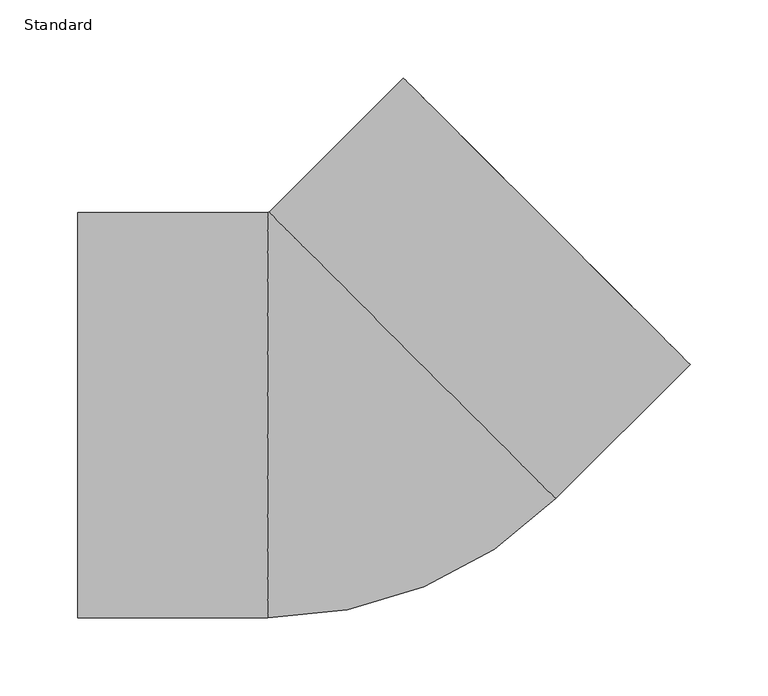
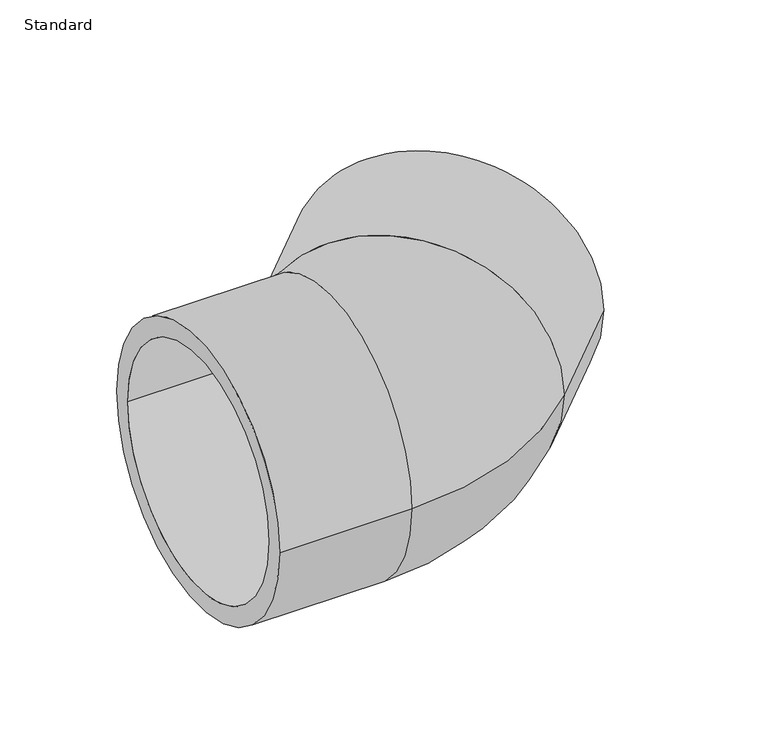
"""IFC4 building model written with IfcOpenShell, lengths in millimetres: pipe fitting geometry, Durapipe_PipeFitting_PVC_Elbow45deg : Standard."""

from ifc_helpers import new_model, si_unit, point, frame, origin, place, context, project, spatial, polyline, circle_curve, ellipse_curve, trimmed, source, transform, mapped, element, save
from ifc_brep_helpers import plane_surface, cylinder_surface, revolved_surface, advanced_brep


def standard_e92a946d(model_context):
    return source(origin(), model_context, "Body", "AdvancedBrep", [
        advanced_brep(
        [(-176.0, -130.0, 0.0), (-176.0, 130.0, 0.0), (-176.0, -112.5, 0.0), (-176.0, 112.5, 0.0), (-54.3477631, -130.0, 0.0), (-54.3477631, 130.0, 0.0), (130.3535534, -53.4942097, 0.0), (-53.4942097, 130.3535534, 0.0), (216.374675, 32.5269119, 0.0), (32.5269119, 216.374675, 0.0), (44.9012806, 204.0003064, 0.0), (204.0003064, 44.9012806, 0.0), (-55.0, 112.5, 0.0), (-55.0, -112.5, 0.0), (-55.0, 0.0, 0.0), (-40.6586399, 118.4403858, 0.0), (38.890873, 38.890873, 0.0), (118.4403858, -40.6586399, 0.0)],
        [
            (0, 1, circle_curve(frame((-176.0, 0.0, 0.0), z_axis=(-1.0, 0.0, 0.0), x_axis=(0.0, 1.0, 0.0)), 130.0)),
            (1, 0, circle_curve(frame((-176.0, 0.0, 0.0), z_axis=(-1.0, 0.0, 0.0), x_axis=(0.0, 1.0, 0.0)), 130.0)),
            (2, 3, circle_curve(frame((-176.0, 0.0, 0.0), z_axis=(1.0, 0.0, 0.0), x_axis=(0.0, -1.0, 0.0)), 112.5)),
            (3, 2, circle_curve(frame((-176.0, 0.0, 0.0), z_axis=(1.0, 0.0, 0.0), x_axis=(0.0, -1.0, 0.0)), 112.5)),
            (0, 4),
            (4, 5, circle_curve(frame((-54.3477631, 0.0, 0.0), z_axis=(-1.0, 0.0, 0.0), x_axis=(0.0, 1.0, 0.0)), 130.0)),
            (5, 1),
            (5, 4, circle_curve(frame((-54.3477631, 0.0, 0.0), z_axis=(-1.0, 0.0, 0.0), x_axis=(0.0, 1.0, 0.0)), 130.0)),
            (4, 6, circle_curve(frame((-54.3477631, 131.2071068, 0.0), z_axis=(0.0, 0.0, 1.0), x_axis=(0.0, -1.0, 0.0)), 261.2071068)),
            (6, 7, circle_curve(frame((38.4296718, 38.4296718, 0.0), z_axis=(-0.7071067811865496, -0.7071067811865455, 0.0), x_axis=(-0.7071067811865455, 0.7071067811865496, 0.0)), 130.0)),
            (7, 5, circle_curve(frame((-54.3477631, 131.2071068, 0.0), z_axis=(0.0, 0.0, -1.0), x_axis=(0.0, -1.0, 0.0)), 1.2071068)),
            (7, 6, circle_curve(frame((38.4296718, 38.4296718, 0.0), z_axis=(-0.707106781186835, -0.70710678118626, 0.0), x_axis=(-0.70710678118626, 0.707106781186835, 0.0)), 130.0)),
            (8, 9, circle_curve(frame((124.4507935, 124.4507935, 0.0), z_axis=(0.7071067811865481, 0.707106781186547, 0.0), x_axis=(-0.707106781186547, 0.7071067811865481, 0.0)), 130.0)),
            (9, 8, circle_curve(frame((124.4507935, 124.4507935, 0.0), z_axis=(0.7071067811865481, 0.707106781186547, 0.0), x_axis=(-0.707106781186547, 0.7071067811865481, 0.0)), 130.0)),
            (10, 11, circle_curve(frame((124.4507935, 124.4507935, 0.0), z_axis=(-0.7071067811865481, -0.707106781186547, 0.0), x_axis=(0.707106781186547, -0.7071067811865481, 0.0)), 112.5)),
            (11, 10, circle_curve(frame((124.4507935, 124.4507935, 0.0), z_axis=(-0.7071067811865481, -0.707106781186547, 0.0), x_axis=(0.707106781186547, -0.7071067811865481, 0.0)), 112.5)),
            (6, 8),
            (9, 7),
            (12, 3),
            (2, 13),
            (13, 12, circle_curve(frame((-55.0, 0.0, 0.0), z_axis=(1.0, 0.0, 0.0), x_axis=(0.0, -1.0, 0.0)), 112.5)),
            (12, 13, circle_curve(frame((-55.0, 0.0, 0.0), z_axis=(1.0, 0.0, 0.0), x_axis=(0.0, -1.0, 0.0)), 112.5)),
            (13, 14),
            (14, 12),
            (15, 16),
            (16, 17),
            (17, 15, circle_curve(frame((38.890873, 38.890873, 0.0), z_axis=(0.7071067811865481, 0.707106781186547, 0.0), x_axis=(0.707106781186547, -0.7071067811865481, 0.0)), 112.5)),
            (15, 17, circle_curve(frame((38.890873, 38.890873, 0.0), z_axis=(0.7071067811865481, 0.707106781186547, 0.0), x_axis=(0.707106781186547, -0.7071067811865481, 0.0)), 112.5)),
            (17, 11),
            (10, 15),
        ],
        [
            plane_surface(frame((-176.0, 0.0, 0.0), z_axis=(-1.0, 0.0, 0.0), x_axis=(0.0, 0.0, 1.0))),
            cylinder_surface(frame((-176.0, 0.0, 0.0), z_axis=(-1.0, 0.0, 0.0), x_axis=(0.0, 1.0, 0.0)), 130.0),
            revolved_surface(trimmed(ellipse_curve(frame((-54.3477631, 0.0, 0.0), z_axis=(-1.0, 0.0, 0.0), x_axis=(0.0, 1.0, 0.0)), 130.0, 130.0), [point((-54.3477631, -130.0, 0.0))], [point((-54.3477631, 130.0, 0.0))], True, "CARTESIAN"), (-54.3477631, 131.2071068, 0.0), (0.0, 0.0, 1.0)),
            revolved_surface(trimmed(ellipse_curve(frame((-54.3477631, 0.0, 0.0), z_axis=(-1.0, 0.0, 0.0), x_axis=(0.0, 1.0, 0.0)), 130.0, 130.0), [point((-54.3477631, 130.0, 0.0))], [point((-54.3477631, -130.0, 0.0))], True, "CARTESIAN"), (-54.3477631, 131.2071068, 0.0), (0.0, 0.0, 1.0)),
            plane_surface(frame((124.4507935, 124.4507935, 0.0), z_axis=(0.7071067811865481, 0.707106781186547, 0.0), x_axis=(0.0, 0.0, 1.0))),
            cylinder_surface(frame((38.4296718, 38.4296718, 0.0), z_axis=(-0.7071067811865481, -0.707106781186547, 0.0), x_axis=(-0.707106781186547, 0.7071067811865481, 0.0)), 130.0),
            revolved_surface(polyline([(-55.0, -112.5, 0.0), (-176.0, -112.5, 0.0)]), (2000.0, 0.0, 0.0), (1.0, 0.0, 0.0)),
            plane_surface(frame((-55.0, 0.0, 0.0), z_axis=(-1.0, 0.0, 0.0), x_axis=(0.0, -1.0, 0.0))),
            plane_surface(frame((38.890873, 38.890873, 0.0), z_axis=(0.7071067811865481, 0.707106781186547, 0.0), x_axis=(0.707106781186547, -0.7071067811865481, 0.0))),
            revolved_surface(polyline([(204.0003063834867, 44.901280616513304, 0.0), (118.44038583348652, -40.65863993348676, 0.0)]), (0.0, 0.0, 0.0), (0.7071067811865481, 0.707106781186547, 0.0)),
        ],
        [
            (0, [[1, 2], [3, 4]]),
            (1, [[-1, 5, 6, 7]]),
            (1, [[-2, -7, 8, -5]]),
            (2, [[-6, 9, 10, 11]]),
            (3, [[-8, -11, 12, -9]]),
            (4, [[13, 14], [15, 16]]),
            (5, [[-10, 17, -14, 18]]),
            (5, [[-12, -18, -13, -17]]),
            (6, [[19, -3, 20, 21]]),
            (6, [[-19, 22, -20, -4]]),
            (7, [[-21, 23, 24]]),
            (7, [[-22, -24, -23]]),
            (8, [[25, 26, 27]]),
            (8, [[-25, 28, -26]]),
            (9, [[-27, 29, -15, 30]]),
            (9, [[-28, -30, -16, -29]]),
        ],
    ),
    ])


if __name__ == "__main__":
    model = new_model("IFC4")
    model_context = context("Model", 3, world=origin())
    ifc_project = project(units=[si_unit("LENGTHUNIT", "METRE", prefix="MILLI")], contexts=[model_context])
    site = spatial("IfcSite", under=ifc_project)
    building = spatial("IfcBuilding", under=site)
    placement = place(None, origin())
    standard_shape = standard_e92a946d(model_context)
    element("IfcPipeFitting", 1, ObjectType="Durapipe_PipeFitting_PVC_Elbow45deg : Standard", at=placement, inside=building, context=model_context, shape_type="MappedRepresentation", body=[
        mapped(standard_shape, transform((0.0, 0.0, 0.0), x_axis=(1.0, 0.0, 0.0), y_axis=(0.0, 1.0, 0.0), z_axis=(0.0, 0.0, 1.0))),
    ])
    save(model, "model.ifc")
